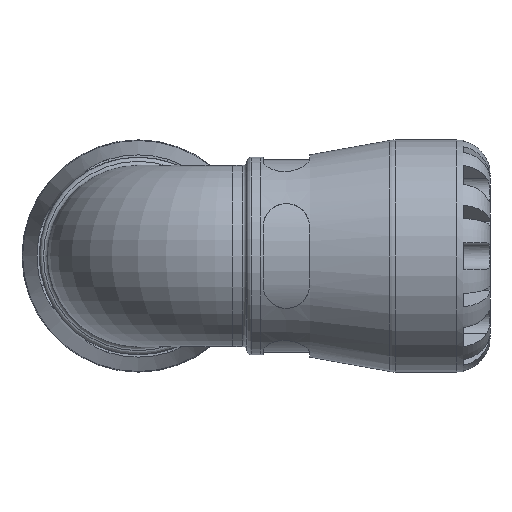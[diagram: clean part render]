
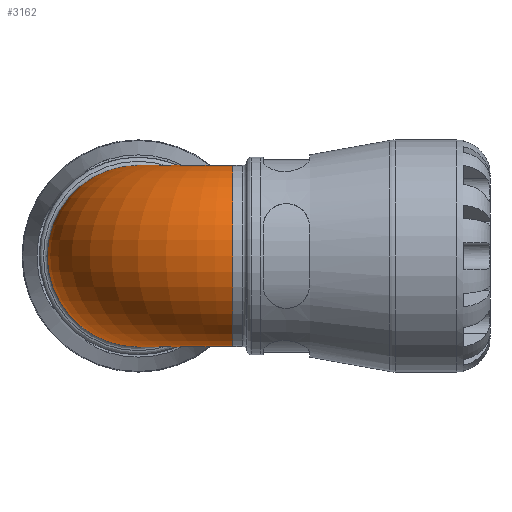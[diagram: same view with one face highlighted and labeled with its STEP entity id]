
A CAD part, front view. The second image highlights one B-rep face of the part: STEP entity #3162.
In plain terms, the highlighted toroidal (fillet/blend) face has major radius 28.525 mm and minor radius 27.3 mm.
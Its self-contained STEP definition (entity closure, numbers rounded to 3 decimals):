
#647=FACE_BOUND('',#881,.T.);
#683=FACE_OUTER_BOUND('',#880,.T.);
#880=EDGE_LOOP('',(#2038));
#881=EDGE_LOOP('',(#2039));
#1112=CIRCLE('',#3363,27.3);
#1113=CIRCLE('',#3364,27.3);
#1282=VERTEX_POINT('',#4626);
#1283=VERTEX_POINT('',#4628);
#1580=EDGE_CURVE('',#1282,#1282,#1112,.T.);
#1581=EDGE_CURVE('',#1283,#1283,#1113,.T.);
#2038=ORIENTED_EDGE('',*,*,#1580,.F.);
#2039=ORIENTED_EDGE('',*,*,#1581,.F.);
#2953=TOROIDAL_SURFACE('',#3362,28.525,27.3);
#3162=ADVANCED_FACE('',(#683,#647),#2953,.T.);
#3362=AXIS2_PLACEMENT_3D('',#4625,#3733,#3734);
#3363=AXIS2_PLACEMENT_3D('',#4627,#3735,#3736);
#3364=AXIS2_PLACEMENT_3D('',#4629,#3737,#3738);
#3733=DIRECTION('center_axis',(0.,0.,1.));
#3734=DIRECTION('ref_axis',(1.,0.,0.));
#3735=DIRECTION('center_axis',(1.,0.,0.));
#3736=DIRECTION('ref_axis',(0.,0.,-1.));
#3737=DIRECTION('center_axis',(0.,1.,0.));
#3738=DIRECTION('ref_axis',(0.,0.,-1.));
#4625=CARTESIAN_POINT('Origin',(28.525,28.525,0.));
#4626=CARTESIAN_POINT('',(28.525,27.3,0.));
#4627=CARTESIAN_POINT('Origin',(28.525,0.,0.));
#4628=CARTESIAN_POINT('',(0.,28.525,-27.3));
#4629=CARTESIAN_POINT('Origin',(0.,28.525,0.));
